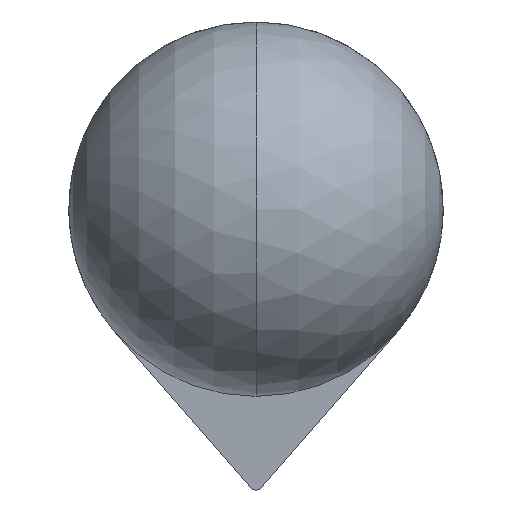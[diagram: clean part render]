
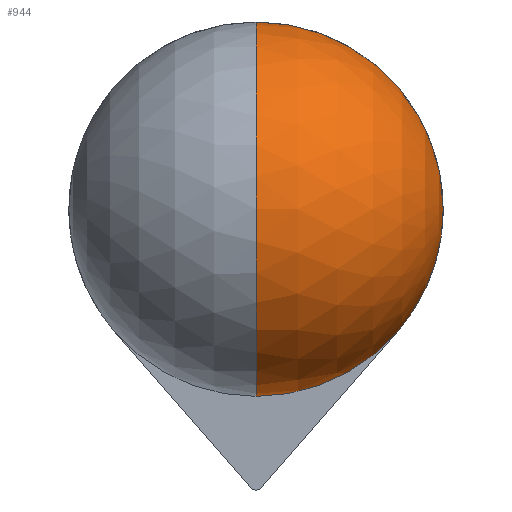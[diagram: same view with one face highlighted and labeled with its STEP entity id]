
A CAD part, front view. The second image highlights one B-rep face of the part: STEP entity #944.
In plain terms, the highlighted spherical face has radius 8 mm.
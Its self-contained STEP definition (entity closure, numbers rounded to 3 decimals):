
#2 = CIRCLE ( 'NONE', #211, 8. ) ;
#89 = VERTEX_POINT ( 'NONE', #786 ) ;
#125 = CARTESIAN_POINT ( 'NONE',  ( 0., 51., 0. ) ) ;
#154 = AXIS2_PLACEMENT_3D ( 'NONE', #474, #731, #1090 ) ;
#168 = EDGE_CURVE ( 'NONE', #890, #89, #987, .T. ) ;
#194 = DIRECTION ( 'NONE',  ( -1., 0., 0. ) ) ;
#211 = AXIS2_PLACEMENT_3D ( 'NONE', #1109, #852, #306 ) ;
#214 = DIRECTION ( 'NONE',  ( 0., 0., 1. ) ) ;
#226 = CIRCLE ( 'NONE', #154, 8. ) ;
#262 = CARTESIAN_POINT ( 'NONE',  ( 0., 51., 0. ) ) ;
#278 = AXIS2_PLACEMENT_3D ( 'NONE', #737, #194, #884 ) ;
#283 = ORIENTED_EDGE ( 'NONE', *, *, #596, .T. ) ;
#306 = DIRECTION ( 'NONE',  ( 0., 0., 1. ) ) ;
#349 = CIRCLE ( 'NONE', #969, 8. ) ;
#443 = CARTESIAN_POINT ( 'NONE',  ( -6.023, 51., -5.265 ) ) ;
#450 = ORIENTED_EDGE ( 'NONE', *, *, #168, .T. ) ;
#473 = VERTEX_POINT ( 'NONE', #928 ) ;
#474 = CARTESIAN_POINT ( 'NONE',  ( 0., 51., 0. ) ) ;
#556 = CARTESIAN_POINT ( 'NONE',  ( 0., 51., 8. ) ) ;
#557 = FACE_OUTER_BOUND ( 'NONE', #1151, .T. ) ;
#596 = EDGE_CURVE ( 'NONE', #869, #890, #349, .T. ) ;
#618 = SPHERICAL_SURFACE ( 'NONE', #278, 8. ) ;
#662 = EDGE_CURVE ( 'NONE', #473, #869, #2, .T. ) ;
#710 = DIRECTION ( 'NONE',  ( 0., 0., 1. ) ) ;
#731 = DIRECTION ( 'NONE',  ( 1., 0., 0. ) ) ;
#737 = CARTESIAN_POINT ( 'NONE',  ( 0., 51., 0. ) ) ;
#743 = ORIENTED_EDGE ( 'NONE', *, *, #662, .T. ) ;
#786 = CARTESIAN_POINT ( 'NONE',  ( 0., 59., 0. ) ) ;
#852 = DIRECTION ( 'NONE',  ( 0., 1., 0. ) ) ;
#869 = VERTEX_POINT ( 'NONE', #443 ) ;
#884 = DIRECTION ( 'NONE',  ( 0., 0., -1. ) ) ;
#890 = VERTEX_POINT ( 'NONE', #556 ) ;
#928 = CARTESIAN_POINT ( 'NONE',  ( 0., 51., -8. ) ) ;
#944 = ADVANCED_FACE ( 'NONE', ( #557 ), #618, .T. ) ;
#969 = AXIS2_PLACEMENT_3D ( 'NONE', #125, #1021, #214 ) ;
#987 = CIRCLE ( 'NONE', #1123, 8. ) ;
#997 = EDGE_CURVE ( 'NONE', #473, #89, #226, .T. ) ;
#1021 = DIRECTION ( 'NONE',  ( 0., 1., 0. ) ) ;
#1090 = DIRECTION ( 'NONE',  ( 0., 0., -1. ) ) ;
#1098 = ORIENTED_EDGE ( 'NONE', *, *, #997, .F. ) ;
#1109 = CARTESIAN_POINT ( 'NONE',  ( 0., 51., 0. ) ) ;
#1123 = AXIS2_PLACEMENT_3D ( 'NONE', #262, #1149, #710 ) ;
#1149 = DIRECTION ( 'NONE',  ( -1., 0., 0. ) ) ;
#1151 = EDGE_LOOP ( 'NONE', ( #283, #450, #1098, #743 ) ) ;
